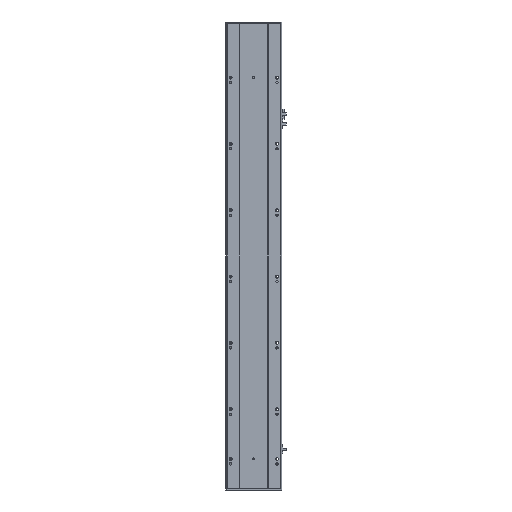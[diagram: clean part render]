
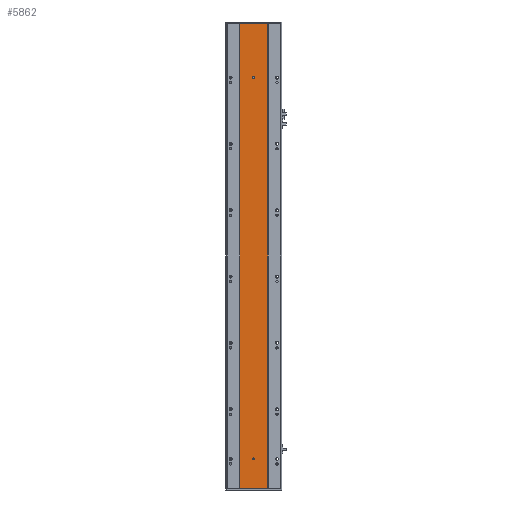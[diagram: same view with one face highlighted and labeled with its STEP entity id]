
A CAD part, front view. The second image highlights one B-rep face of the part: STEP entity #5862.
In plain terms, the highlighted planar face has unit normal (0, -1, 0).
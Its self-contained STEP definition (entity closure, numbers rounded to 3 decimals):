
#85 = VERTEX_POINT ( 'NONE', #18623 ) ;
#220 = EDGE_LOOP ( 'NONE', ( #13282, #20589, #19987, #24629 ) ) ;
#323 = CARTESIAN_POINT ( 'NONE',  ( 42.916, 2.57, 0. ) ) ;
#465 = VERTEX_POINT ( 'NONE', #323 ) ;
#510 = DIRECTION ( 'NONE',  ( 0., 0., 1. ) ) ;
#782 = DIRECTION ( 'NONE',  ( 0., 0., 1. ) ) ;
#920 = CIRCLE ( 'NONE', #1275, 3. ) ;
#1273 = VECTOR ( 'NONE', #22881, 1000. ) ;
#1275 = AXIS2_PLACEMENT_3D ( 'NONE', #5867, #19933, #7911 ) ;
#1972 = VERTEX_POINT ( 'NONE', #3402 ) ;
#2124 = LINE ( 'NONE', #7446, #12205 ) ;
#3402 = CARTESIAN_POINT ( 'NONE',  ( 85., 2.57, 1235.5 ) ) ;
#3657 = PLANE ( 'NONE',  #4527 ) ;
#3863 = VERTEX_POINT ( 'NONE', #13942 ) ;
#4527 = AXIS2_PLACEMENT_3D ( 'NONE', #13612, #17749, #5695 ) ;
#4702 = VECTOR ( 'NONE', #19449, 1000. ) ;
#5162 = EDGE_CURVE ( 'NONE', #465, #25212, #20758, .T. ) ;
#5695 = DIRECTION ( 'NONE',  ( 0., 0., 1. ) ) ;
#5862 = ADVANCED_FACE ( 'NONE', ( #8407, #19729, #24430 ), #3657, .F. ) ;
#5867 = CARTESIAN_POINT ( 'NONE',  ( 85., 2.57, 1238.5 ) ) ;
#6164 = AXIS2_PLACEMENT_3D ( 'NONE', #11557, #25617, #13585 ) ;
#7090 = CARTESIAN_POINT ( 'NONE',  ( 85., 2.57, 88.5 ) ) ;
#7446 = CARTESIAN_POINT ( 'NONE',  ( 42.916, 2.57, 0. ) ) ;
#7911 = DIRECTION ( 'NONE',  ( 0., 0., 1. ) ) ;
#8407 = FACE_BOUND ( 'NONE', #9818, .T. ) ;
#9090 = DIRECTION ( 'NONE',  ( 0., 0., 1. ) ) ;
#9314 = LINE ( 'NONE', #14838, #24102 ) ;
#9522 = CIRCLE ( 'NONE', #17864, 3. ) ;
#9818 = EDGE_LOOP ( 'NONE', ( #16189, #18638 ) ) ;
#11357 = CARTESIAN_POINT ( 'NONE',  ( 42.916, 2.57, 0. ) ) ;
#11557 = CARTESIAN_POINT ( 'NONE',  ( 85., 2.57, 88.5 ) ) ;
#12150 = VERTEX_POINT ( 'NONE', #12936 ) ;
#12205 = VECTOR ( 'NONE', #17452, 1000. ) ;
#12220 = EDGE_LOOP ( 'NONE', ( #14727, #22073 ) ) ;
#12521 = DIRECTION ( 'NONE',  ( 0., 1., 0. ) ) ;
#12936 = CARTESIAN_POINT ( 'NONE',  ( 85., 2.57, 1241.5 ) ) ;
#13282 = ORIENTED_EDGE ( 'NONE', *, *, #15133, .T. ) ;
#13391 = EDGE_CURVE ( 'NONE', #12150, #1972, #9522, .T. ) ;
#13585 = DIRECTION ( 'NONE',  ( 0., 0., 1. ) ) ;
#13612 = CARTESIAN_POINT ( 'NONE',  ( 42.916, 2.57, 0. ) ) ;
#13942 = CARTESIAN_POINT ( 'NONE',  ( 126.916, 2.57, 0. ) ) ;
#14092 = CIRCLE ( 'NONE', #17208, 3. ) ;
#14093 = CIRCLE ( 'NONE', #6164, 3. ) ;
#14727 = ORIENTED_EDGE ( 'NONE', *, *, #22440, .T. ) ;
#14838 = CARTESIAN_POINT ( 'NONE',  ( 126.916, 2.57, 0. ) ) ;
#15133 = EDGE_CURVE ( 'NONE', #85, #25212, #22657, .T. ) ;
#15841 = CARTESIAN_POINT ( 'NONE',  ( 42.916, 2.57, 1401. ) ) ;
#16189 = ORIENTED_EDGE ( 'NONE', *, *, #16210, .T. ) ;
#16210 = EDGE_CURVE ( 'NONE', #24524, #22566, #14092, .T. ) ;
#16289 = EDGE_CURVE ( 'NONE', #3863, #465, #2124, .T. ) ;
#17208 = AXIS2_PLACEMENT_3D ( 'NONE', #7090, #21127, #9090 ) ;
#17265 = EDGE_CURVE ( 'NONE', #3863, #85, #9314, .T. ) ;
#17452 = DIRECTION ( 'NONE',  ( -1., 0., 0. ) ) ;
#17749 = DIRECTION ( 'NONE',  ( 0., 1., 0. ) ) ;
#17864 = AXIS2_PLACEMENT_3D ( 'NONE', #24569, #12521, #510 ) ;
#18623 = CARTESIAN_POINT ( 'NONE',  ( 126.916, 2.57, 1401. ) ) ;
#18638 = ORIENTED_EDGE ( 'NONE', *, *, #22775, .T. ) ;
#19449 = DIRECTION ( 'NONE',  ( 0., 0., 1. ) ) ;
#19729 = FACE_BOUND ( 'NONE', #12220, .T. ) ;
#19933 = DIRECTION ( 'NONE',  ( 0., 1., 0. ) ) ;
#19987 = ORIENTED_EDGE ( 'NONE', *, *, #16289, .F. ) ;
#20589 = ORIENTED_EDGE ( 'NONE', *, *, #5162, .F. ) ;
#20758 = LINE ( 'NONE', #11357, #4702 ) ;
#21127 = DIRECTION ( 'NONE',  ( 0., 1., 0. ) ) ;
#22073 = ORIENTED_EDGE ( 'NONE', *, *, #13391, .T. ) ;
#22440 = EDGE_CURVE ( 'NONE', #1972, #12150, #920, .T. ) ;
#22566 = VERTEX_POINT ( 'NONE', #24854 ) ;
#22657 = LINE ( 'NONE', #24920, #1273 ) ;
#22775 = EDGE_CURVE ( 'NONE', #22566, #24524, #14093, .T. ) ;
#22881 = DIRECTION ( 'NONE',  ( -1., 0., 0. ) ) ;
#24102 = VECTOR ( 'NONE', #782, 1000. ) ;
#24430 = FACE_OUTER_BOUND ( 'NONE', #220, .T. ) ;
#24524 = VERTEX_POINT ( 'NONE', #25588 ) ;
#24569 = CARTESIAN_POINT ( 'NONE',  ( 85., 2.57, 1238.5 ) ) ;
#24629 = ORIENTED_EDGE ( 'NONE', *, *, #17265, .T. ) ;
#24854 = CARTESIAN_POINT ( 'NONE',  ( 85., 2.57, 91.5 ) ) ;
#24920 = CARTESIAN_POINT ( 'NONE',  ( 42.916, 2.57, 1401. ) ) ;
#25212 = VERTEX_POINT ( 'NONE', #15841 ) ;
#25588 = CARTESIAN_POINT ( 'NONE',  ( 85., 2.57, 85.5 ) ) ;
#25617 = DIRECTION ( 'NONE',  ( 0., 1., 0. ) ) ;
